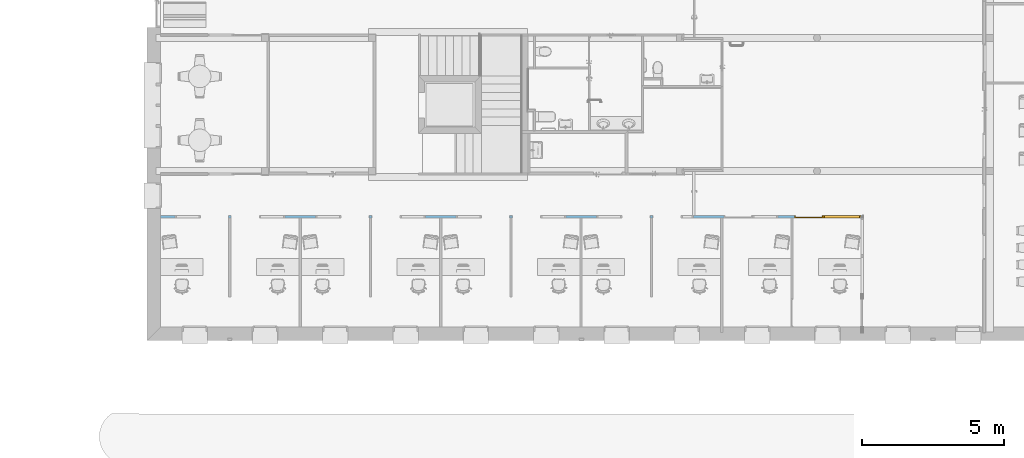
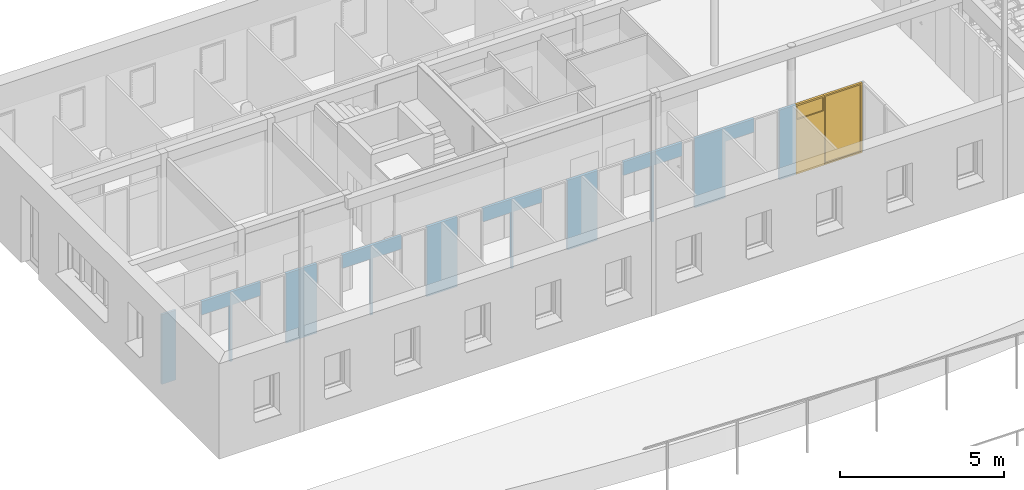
# One storey, part 39 of 91: 1 door, 1 window, 20 openings, plus 1 element that does not belong to this part.
"""IFC2X3 building model written with IfcOpenShell, lengths in metres."""

from ifc_helpers import new_model, entity, si_unit, converted_unit, derived_unit, money_unit, direction, frame, origin_with_axes, origin_2d_with_axis, place, context, subcontext, project, spatial, polyline, rectangle, outline, extrude, open_shell, faceted_brep, surface_model, material, layer, layer_set, layer_usage, type_object, element, fill, save


model = new_model("IFC2X3")

# Units and contexts
model_context = context("Model", 3, precision=1e-05, world=origin_with_axes(), true_north=direction((0.0, 1.0)))
body_context = subcontext(model_context, "Body", "Model", "MODEL_VIEW")
ifc_project = project(units=[si_unit("LENGTHUNIT", "METRE"), si_unit("AREAUNIT", "SQUARE_METRE"), si_unit("VOLUMEUNIT", "CUBIC_METRE"), converted_unit("PLANEANGLEUNIT", "DEGREE", entity("IfcPlaneAngleMeasure", 0.0174532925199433), si_unit("PLANEANGLEUNIT", "RADIAN"), dimensions=[0, 0, 0, 0, 0, 0, 0]), money_unit("EUR"), converted_unit("TIMEUNIT", "Year", entity("IfcTimeMeasure", 31557600.0), si_unit("TIMEUNIT", "SECOND"), dimensions=[0, 0, 1, 0, 0, 0, 0]), si_unit("MASSUNIT", "GRAM", prefix="KILO"), si_unit("THERMODYNAMICTEMPERATUREUNIT", "DEGREE_CELSIUS"), si_unit("LUMINOUSINTENSITYUNIT", "LUMEN"), si_unit("ENERGYUNIT", "JOULE", prefix="MEGA"), derived_unit("THERMALCONDUCTANCEUNIT", [(si_unit("POWERUNIT", "WATT"), 1), (si_unit("LENGTHUNIT", "METRE"), -1), (si_unit("THERMODYNAMICTEMPERATUREUNIT", "KELVIN"), -1)]), derived_unit("SPECIFICHEATCAPACITYUNIT", [(si_unit("ENERGYUNIT", "JOULE"), 1), (si_unit("MASSUNIT", "GRAM", prefix="KILO"), -1), (si_unit("THERMODYNAMICTEMPERATUREUNIT", "KELVIN"), -1)]), derived_unit("MASSDENSITYUNIT", [(si_unit("MASSUNIT", "GRAM", prefix="KILO"), 1), (si_unit("VOLUMEUNIT", "CUBIC_METRE"), -1)])], contexts=[model_context])

# Site, building, storey
site_placement = place(None, origin_with_axes())
site = spatial("IfcSite", under=ifc_project, at=site_placement, Name="Site", CompositionType="ELEMENT")
building_placement = place(site_placement, origin_with_axes())
building = spatial("IfcBuilding", under=site, at=building_placement, Name="Bâtiment", CompositionType="ELEMENT")
storey_placement = place(building_placement, origin_with_axes())
storey = spatial("IfcBuildingStorey", under=building, at=storey_placement, Name="RDC", CompositionType="ELEMENT", Elevation=0.0)

# Wall, openings, window, door
ifc_material = material(Name="*PLAQUE DE PLATRE - CLOISON")
ifc_layer = layer(ifc_material, 0.08, ventilated="UNKNOWN")
ifc_layer_set = layer_set([ifc_layer], Name="*PLAQUE DE PLATRE - CLOISON 0.08")
ifc_layer_usage = layer_usage(ifc_layer_set, "AXIS2", "NEGATIVE", 0.0)
wall_type = type_object("IfcWallType", Name="*PLAQUE DE PLATRE - CLOISON 80", PredefinedType="NOTDEFINED")
wall_placement = place(storey_placement, frame((49.88999999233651, -23.11056215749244, 0.0), z_axis=(0.0, 0.0, 1.0), x_axis=(-1.0, 0.0, 0.0)))
wall = element("IfcWallStandardCase", 1, at=wall_placement, inside=storey, type_object=wall_type, material=ifc_layer_usage, Name="Cloison modulaire", context=body_context, shape_type="SweptSolid", body=[
    extrude(outline(polyline([(0.0, -0.0799999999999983), (24.78999999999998, -0.0799999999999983), (24.78999999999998, 0.0), (0.0799999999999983, 0.0), (0.0, -0.0799999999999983)])), origin_with_axes(), (0.0, 0.0, 1.0), 2.6),
])
opening_1_placement = place(wall_placement, frame((0.7535000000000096, 0.0, 0.0), z_axis=(0.0, 0.0, 1.0), x_axis=(1.0, 0.0, 0.0)))
opening_1 = element("IfcOpeningElement", 2, at=opening_1_placement, cuts=wall, Name="CH.3+vitrophanie", context=body_context, shape_type="SweptSolid", body=[
    extrude(rectangle(XDim=1.347000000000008, YDim=2.6, at=origin_2d_with_axis()), frame((0.0, 0.08000000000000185, 1.3), z_axis=(0.0, -1.0, 0.0), x_axis=(-1.0, 0.0, 0.0)), (0.0, 0.0, 1.0), 0.24),
])
opening_2_placement = place(wall_placement, frame((3.459999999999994, 0.0, 0.0), z_axis=(0.0, 0.0, 1.0), x_axis=(1.0, 0.0, 0.0)))
element("IfcOpeningElement", 3, at=opening_2_placement, cuts=wall, Name="CH.1+vitrophanie", context=body_context, shape_type="SweptSolid", body=[
    extrude(rectangle(XDim=0.9000000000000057, YDim=2.6, at=origin_2d_with_axis()), frame((0.0, 0.08000000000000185, 1.3), z_axis=(0.0, -1.0, 0.0), x_axis=(-1.0, 0.0, 0.0)), (0.0, 0.0, 1.0), 0.24),
])
opening_3_placement = place(wall_placement, frame((8.966999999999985, 0.0, 0.0), z_axis=(0.0, 0.0, 1.0), x_axis=(1.0, 0.0, 0.0)))
element("IfcOpeningElement", 4, at=opening_3_placement, cuts=wall, Name="CH.1+vitrophanie", context=body_context, shape_type="SweptSolid", body=[
    extrude(rectangle(XDim=0.9000000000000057, YDim=2.6, at=origin_2d_with_axis()), frame((0.0, 0.08000000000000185, 1.3), z_axis=(0.0, -1.0, 0.0), x_axis=(-1.0, 0.0, 0.0)), (0.0, 0.0, 1.0), 0.24),
])
opening_4_placement = place(wall_placement, frame((6.216999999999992, 0.0, 0.0), z_axis=(0.0, 0.0, 1.0), x_axis=(1.0, 0.0, 0.0)))
element("IfcOpeningElement", 5, at=opening_4_placement, cuts=wall, Name="CH.2+vitrophanie", context=body_context, shape_type="SweptSolid", body=[
    extrude(rectangle(XDim=0.4400000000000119, YDim=2.6, at=origin_2d_with_axis()), frame((0.0, 0.08000000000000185, 1.3), z_axis=(0.0, -1.0, 0.0), x_axis=(-1.0, 0.0, 0.0)), (0.0, 0.0, 1.0), 0.24),
])
opening_5_placement = place(wall_placement, frame((10.93699999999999, 0.0, 0.0), z_axis=(0.0, 0.0, 1.0), x_axis=(1.0, 0.0, 0.0)))
element("IfcOpeningElement", 6, at=opening_5_placement, cuts=wall, Name="CH.1+vitrophanie", context=body_context, shape_type="SweptSolid", body=[
    extrude(rectangle(XDim=0.9000000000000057, YDim=2.6, at=origin_2d_with_axis()), frame((0.0, 0.08000000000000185, 1.3), z_axis=(0.0, -1.0, 0.0), x_axis=(-1.0, 0.0, 0.0)), (0.0, 0.0, 1.0), 0.24),
])
opening_6_placement = place(wall_placement, frame((15.89699999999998, 0.0, 0.0), z_axis=(0.0, 0.0, 1.0), x_axis=(1.0, 0.0, 0.0)))
element("IfcOpeningElement", 7, at=opening_6_placement, cuts=wall, Name="CH.1+vitrophanie", context=body_context, shape_type="SweptSolid", body=[
    extrude(rectangle(XDim=0.9000000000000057, YDim=2.6, at=origin_2d_with_axis()), frame((0.0, 0.08000000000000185, 1.3), z_axis=(0.0, -1.0, 0.0), x_axis=(-1.0, 0.0, 0.0)), (0.0, 0.0, 1.0), 0.24),
])
opening_7_placement = place(wall_placement, frame((20.85699999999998, 0.0, 0.0), z_axis=(0.0, 0.0, 1.0), x_axis=(1.0, 0.0, 0.0)))
element("IfcOpeningElement", 8, at=opening_7_placement, cuts=wall, Name="CH.1+vitrophanie", context=body_context, shape_type="SweptSolid", body=[
    extrude(rectangle(XDim=0.8999999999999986, YDim=2.6, at=origin_2d_with_axis()), frame((0.0, 0.08000000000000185, 1.3), z_axis=(0.0, -1.0, 0.0), x_axis=(-1.0, 0.0, 0.0)), (0.0, 0.0, 1.0), 0.24),
])
opening_8_placement = place(wall_placement, frame((18.87699999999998, 0.0, 0.0), z_axis=(0.0, 0.0, 1.0), x_axis=(1.0, 0.0, 0.0)))
element("IfcOpeningElement", 9, at=opening_8_placement, cuts=wall, Name="CH.1+vitrophanie", context=body_context, shape_type="SweptSolid", body=[
    extrude(rectangle(XDim=0.8999999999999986, YDim=2.6, at=origin_2d_with_axis()), frame((0.0, 0.08000000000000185, 1.3), z_axis=(0.0, -1.0, 0.0), x_axis=(-1.0, 0.0, 0.0)), (0.0, 0.0, 1.0), 0.24),
])
opening_9_placement = place(wall_placement, frame((23.83699999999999, 0.0, 0.0), z_axis=(0.0, 0.0, 1.0), x_axis=(1.0, 0.0, 0.0)))
element("IfcOpeningElement", 10, at=opening_9_placement, cuts=wall, Name="CH.1+vitrophanie", context=body_context, shape_type="SweptSolid", body=[
    extrude(rectangle(XDim=0.8999999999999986, YDim=2.6, at=origin_2d_with_axis()), frame((0.0, 0.08000000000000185, 1.3), z_axis=(0.0, -1.0, 0.0), x_axis=(-1.0, 0.0, 0.0)), (0.0, 0.0, 1.0), 0.24),
])
opening_10_placement = place(wall_placement, frame((1.927000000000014, 0.0, 0.0), z_axis=(0.0, 0.0, 1.0), x_axis=(1.0, 0.0, 0.0)))
opening_10 = element("IfcOpeningElement", 11, at=opening_10_placement, cuts=wall, Name="Pi.01", context=body_context, shape_type="SweptSolid", body=[
    extrude(rectangle(XDim=1.0, YDim=2.6, at=origin_2d_with_axis()), frame((0.0, 0.08000000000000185, 1.3), z_axis=(0.0, -1.0, 0.0), x_axis=(1.0, 0.0, 0.0)), (0.0, 0.0, 1.0), 0.24),
])
opening_11_placement = place(wall_placement, frame((13.91699999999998, 0.0, 0.0), z_axis=(0.0, 0.0, 1.0), x_axis=(1.0, 0.0, 0.0)))
element("IfcOpeningElement", 12, at=opening_11_placement, cuts=wall, Name="CH.1+vitrophanie", context=body_context, shape_type="SweptSolid", body=[
    extrude(rectangle(XDim=0.9000000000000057, YDim=2.6, at=origin_2d_with_axis()), frame((0.0, 0.08000000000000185, 1.3), z_axis=(0.0, -1.0, 0.0), x_axis=(-1.0, 0.0, 0.0)), (0.0, 0.0, 1.0), 0.24),
])
opening_12_placement = place(wall_placement, frame((4.409999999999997, 0.0, 0.0), z_axis=(0.0, 0.0, 1.0), x_axis=(1.0, 0.0, 0.0)))
element("IfcOpeningElement", 13, at=opening_12_placement, cuts=wall, Name="Pi.01", context=body_context, shape_type="SweptSolid", body=[
    extrude(rectangle(XDim=1.0, YDim=2.1, at=origin_2d_with_axis()), frame((0.0, 0.08000000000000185, 1.05), z_axis=(0.0, -1.0, 0.0), x_axis=(1.0, 0.0, 0.0)), (0.0, 0.0, 1.0), 0.24),
])
opening_13_placement = place(wall_placement, frame((17.92699999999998, 0.0, 0.0), z_axis=(0.0, 0.0, 1.0), x_axis=(1.0, 0.0, 0.0)))
element("IfcOpeningElement", 14, at=opening_13_placement, cuts=wall, Name="libre", context=body_context, shape_type="SweptSolid", body=[
    extrude(rectangle(XDim=0.9999999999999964, YDim=2.1, at=origin_2d_with_axis()), frame((0.0, -0.0800000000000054, 1.05), z_axis=(0.0, 1.0, 0.0), x_axis=(1.0, 0.0, 0.0)), (0.0, 0.0, -1.0), 0.08),
    extrude(rectangle(XDim=0.9999999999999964, YDim=2.1, at=origin_2d_with_axis()), frame((0.0, -0.0800000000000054, 1.05), z_axis=(0.0, -1.0, 0.0), x_axis=(1.0, 0.0, 0.0)), (0.0, 0.0, -1.0), 0.08),
])
opening_14_placement = place(wall_placement, frame((11.88699999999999, 0.0, 0.0), z_axis=(0.0, 0.0, 1.0), x_axis=(1.0, 0.0, 0.0)))
element("IfcOpeningElement", 15, at=opening_14_placement, cuts=wall, Name="libre", context=body_context, shape_type="SweptSolid", body=[
    extrude(rectangle(XDim=1.0, YDim=2.1, at=origin_2d_with_axis()), frame((0.0, -0.0799999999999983, 1.05), z_axis=(0.0, 1.0, 0.0), x_axis=(1.0, 0.0, 0.0)), (0.0, 0.0, -1.0), 0.08),
    extrude(rectangle(XDim=1.0, YDim=2.1, at=origin_2d_with_axis()), frame((0.0, -0.0799999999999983, 1.05), z_axis=(0.0, -1.0, 0.0), x_axis=(1.0, 0.0, 0.0)), (0.0, 0.0, -1.0), 0.08),
])
opening_15_placement = place(wall_placement, frame((12.96699999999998, 0.0, 0.0), z_axis=(0.0, 0.0, 1.0), x_axis=(1.0, 0.0, 0.0)))
element("IfcOpeningElement", 16, at=opening_15_placement, cuts=wall, Name="libre", context=body_context, shape_type="SweptSolid", body=[
    extrude(rectangle(XDim=1.0, YDim=2.1, at=origin_2d_with_axis()), frame((0.0, -0.08000000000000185, 1.05), z_axis=(0.0, 1.0, 0.0), x_axis=(1.0, 0.0, 0.0)), (0.0, 0.0, -1.0), 0.08),
    extrude(rectangle(XDim=1.0, YDim=2.1, at=origin_2d_with_axis()), frame((0.0, -0.08000000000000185, 1.05), z_axis=(0.0, -1.0, 0.0), x_axis=(1.0, 0.0, 0.0)), (0.0, 0.0, -1.0), 0.08),
])
opening_16_placement = place(wall_placement, frame((6.936999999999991, 0.0, 0.0), z_axis=(0.0, 0.0, 1.0), x_axis=(1.0, 0.0, 0.0)))
element("IfcOpeningElement", 17, at=opening_16_placement, cuts=wall, Name="libre", context=body_context, shape_type="SweptSolid", body=[
    extrude(rectangle(XDim=1.0, YDim=2.1, at=origin_2d_with_axis()), frame((0.0, -0.0799999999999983, 1.05), z_axis=(0.0, 1.0, 0.0), x_axis=(1.0, 0.0, 0.0)), (0.0, 0.0, -1.0), 0.08),
    extrude(rectangle(XDim=1.0, YDim=2.1, at=origin_2d_with_axis()), frame((0.0, -0.0799999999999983, 1.05), z_axis=(0.0, -1.0, 0.0), x_axis=(1.0, 0.0, 0.0)), (0.0, 0.0, -1.0), 0.08),
])
opening_17_placement = place(wall_placement, frame((8.016999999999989, 0.0, 0.0), z_axis=(0.0, 0.0, 1.0), x_axis=(1.0, 0.0, 0.0)))
element("IfcOpeningElement", 18, at=opening_17_placement, cuts=wall, Name="libre", context=body_context, shape_type="SweptSolid", body=[
    extrude(rectangle(XDim=1.0, YDim=2.1, at=origin_2d_with_axis()), frame((0.0, -0.0799999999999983, 1.05), z_axis=(0.0, 1.0, 0.0), x_axis=(1.0, 0.0, 0.0)), (0.0, 0.0, -1.0), 0.08),
    extrude(rectangle(XDim=1.0, YDim=2.1, at=origin_2d_with_axis()), frame((0.0, -0.0799999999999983, 1.05), z_axis=(0.0, -1.0, 0.0), x_axis=(1.0, 0.0, 0.0)), (0.0, 0.0, -1.0), 0.08),
])
opening_18_placement = place(wall_placement, frame((16.84699999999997, 0.0, 0.0), z_axis=(0.0, 0.0, 1.0), x_axis=(1.0, 0.0, 0.0)))
element("IfcOpeningElement", 19, at=opening_18_placement, cuts=wall, Name="libre", context=body_context, shape_type="SweptSolid", body=[
    extrude(rectangle(XDim=1.0, YDim=2.1, at=origin_2d_with_axis()), frame((0.0, -0.0800000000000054, 1.05), z_axis=(0.0, 1.0, 0.0), x_axis=(1.0, 0.0, 0.0)), (0.0, 0.0, -1.0), 0.08),
    extrude(rectangle(XDim=1.0, YDim=2.1, at=origin_2d_with_axis()), frame((0.0, -0.0800000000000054, 1.05), z_axis=(0.0, -1.0, 0.0), x_axis=(1.0, 0.0, 0.0)), (0.0, 0.0, -1.0), 0.08),
])
opening_19_placement = place(wall_placement, frame((22.88699999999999, 0.0, 0.0), z_axis=(0.0, 0.0, 1.0), x_axis=(1.0, 0.0, 0.0)))
element("IfcOpeningElement", 20, at=opening_19_placement, cuts=wall, Name="libre", context=body_context, shape_type="SweptSolid", body=[
    extrude(rectangle(XDim=1.0, YDim=2.1, at=origin_2d_with_axis()), frame((0.0, -0.0800000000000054, 1.05), z_axis=(0.0, 1.0, 0.0), x_axis=(1.0, 0.0, 0.0)), (0.0, 0.0, -1.0), 0.08),
    extrude(rectangle(XDim=1.0, YDim=2.1, at=origin_2d_with_axis()), frame((0.0, -0.0800000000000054, 1.05), z_axis=(0.0, -1.0, 0.0), x_axis=(1.0, 0.0, 0.0)), (0.0, 0.0, -1.0), 0.08),
])
opening_20_placement = place(wall_placement, frame((21.80699999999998, 0.0, 0.0), z_axis=(0.0, 0.0, 1.0), x_axis=(1.0, 0.0, 0.0)))
element("IfcOpeningElement", 21, at=opening_20_placement, cuts=wall, Name="libre", context=body_context, shape_type="SweptSolid", body=[
    extrude(rectangle(XDim=1.0, YDim=2.1, at=origin_2d_with_axis()), frame((0.0, -0.0800000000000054, 1.05), z_axis=(0.0, 1.0, 0.0), x_axis=(1.0, 0.0, 0.0)), (0.0, 0.0, -1.0), 0.08),
    extrude(rectangle(XDim=1.0, YDim=2.1, at=origin_2d_with_axis()), frame((0.0, -0.0800000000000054, 1.05), z_axis=(0.0, -1.0, 0.0), x_axis=(1.0, 0.0, 0.0)), (0.0, 0.0, -1.0), 0.08),
])
window_style = type_object("IfcWindowStyle", Name="Fenêtre 27", ConstructionType="NOTDEFINED", OperationType="SINGLE_PANEL", ParameterTakesPrecedence=False, Sizeable=False)
window_placement = place(opening_1_placement, frame((0.6735000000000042, 0.0, 0.0), z_axis=(0.0, 0.0, 1.0), x_axis=(-1.0, 0.0, 0.0)))
window = element("IfcWindow", 22, at=window_placement, inside=storey, type_object=window_style, Name="CH.3+vitrophanie", OverallHeight=2.6, OverallWidth=1.347, context=body_context, shape_type="SurfaceModel", body=[
    faceted_brep([(0.04999999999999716, 0.0, 2.55), (0.04999999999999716, 0.0799999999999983, 2.55), (0.0, 0.0799999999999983, 2.6), (0.0, 0.0, 2.6), (0.04999999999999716, 0.0, 0.04999999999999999), (0.04999999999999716, 0.0799999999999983, 0.05), (0.0, 0.0799999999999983, 0.0), (0.0, 0.0, 0.0)], [[[0, 1, 2, 3]], [[4, 5, 1, 0]], [[1, 5, 6, 2]], [[3, 2, 6, 7]], [[0, 3, 7, 4]], [[7, 6, 5, 4]]]),
    faceted_brep([(1.297000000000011, 0.0, 0.04999999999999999), (1.297000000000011, 0.0799999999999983, 0.05), (1.347000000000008, 0.0799999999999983, 0.0), (1.347000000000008, 0.0, 0.0), (1.297000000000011, 0.0, 2.55), (1.297000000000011, 0.0799999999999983, 2.55), (1.347000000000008, 0.0799999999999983, 2.6), (1.347000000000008, 0.0, 2.6)], [[[0, 1, 2, 3]], [[4, 5, 1, 0]], [[1, 5, 6, 2]], [[3, 2, 6, 7]], [[0, 3, 7, 4]], [[7, 6, 5, 4]]]),
    faceted_brep([(0.04999999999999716, 0.0, 0.04999999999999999), (0.04999999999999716, 0.0799999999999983, 0.05), (0.0, 0.0799999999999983, 0.0), (0.0, 0.0, 0.0), (1.297000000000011, 0.0, 0.04999999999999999), (1.297000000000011, 0.0799999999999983, 0.05), (1.347000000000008, 0.0799999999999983, 0.0), (1.347000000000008, 0.0, 0.0)], [[[0, 1, 2, 3]], [[4, 5, 1, 0]], [[1, 5, 6, 2]], [[3, 2, 6, 7]], [[0, 3, 7, 4]], [[7, 6, 5, 4]]]),
    faceted_brep([(1.297000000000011, 0.0, 2.55), (1.297000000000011, 0.0799999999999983, 2.55), (1.347000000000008, 0.0799999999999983, 2.6), (1.347000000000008, 0.0, 2.6), (0.04999999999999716, 0.0, 2.55), (0.04999999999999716, 0.0799999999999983, 2.55), (0.0, 0.0799999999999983, 2.6), (0.0, 0.0, 2.6)], [[[0, 1, 2, 3]], [[4, 5, 1, 0]], [[1, 5, 6, 2]], [[3, 2, 6, 7]], [[0, 3, 7, 4]], [[7, 6, 5, 4]]]),
    surface_model("IfcShellBasedSurfaceModel", [(0.04999999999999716, 0.05999999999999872, 0.05000000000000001), (1.297000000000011, 0.05999999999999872, 0.05000000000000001), (1.297000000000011, 0.05999999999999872, 2.55), (0.04999999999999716, 0.05999999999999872, 2.55)], [open_shell([[[0, 1, 2, 3]]])]),
    surface_model("IfcShellBasedSurfaceModel", [(0.04999999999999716, 0.0799999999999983, 0.05000000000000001), (0.04999999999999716, 0.0799999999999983, 2.55), (1.297000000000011, 0.0799999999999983, 2.55), (1.297000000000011, 0.0799999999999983, 0.05000000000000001)], [open_shell([[[0, 1, 2, 3]]])]),
])
fill(opening_1, window)
door_style = type_object("IfcDoorStyle", Name="Porte avec imposte 27", ConstructionType="NOTDEFINED", OperationType="SINGLE_SWING_RIGHT", ParameterTakesPrecedence=False, Sizeable=False)
door_placement = place(opening_10_placement, frame((-0.5, 0.0, 0.0), z_axis=(0.0, 0.0, 1.0), x_axis=(1.0, 0.0, 0.0)))
door = element("IfcDoor", 23, at=door_placement, inside=storey, type_object=door_style, Name="Pi.01", OverallHeight=2.6, OverallWidth=1.0, context=body_context, shape_type="SurfaceModel", body=[
    faceted_brep([(0.03509975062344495, 0.0, 2.03), (0.03509975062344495, -0.0519999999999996, 2.03), (0.03509975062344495, -0.0799999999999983, 2.03), (0.03499999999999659, -0.0799999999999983, 1.99), (0.03499999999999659, -0.03999999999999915, 1.99), (0.03507481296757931, -0.03999999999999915, 2.02), (0.03507481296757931, 0.0, 2.02), (0.03499999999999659, -0.0519999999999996, 2.03), (0.03499999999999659, 0.0, 2.03), (0.03499999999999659, -0.0799999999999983, 2.03), (0.03499999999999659, -0.0799999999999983, 0.0), (0.03499999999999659, -0.0799999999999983, 2.5399), (0.0, -0.0799999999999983, 2.5399), (0.0, -0.0799999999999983, 0.0), (0.03499999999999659, -0.03999999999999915, 0.0), (0.005000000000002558, -0.03999999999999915, 2.02), (0.005000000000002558, -0.03999999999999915, 0.0), (0.005000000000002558, 0.0, 2.02), (0.005000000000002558, 0.0, 0.0), (0.0, 0.0, 0.0), (0.0, 0.0, 2.5399), (0.03499999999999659, 0.0, 2.5399), (0.03499999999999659, -0.0519999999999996, 2.5399)], [[[0, 1, 2, 3, 4, 5, 6]], [[7, 1, 0, 8]], [[1, 7, 9, 2]], [[10, 3, 2, 9, 11, 12, 13]], [[3, 10, 14, 4]], [[15, 5, 4, 14, 16]], [[15, 17, 6, 5]], [[8, 0, 6, 17, 18, 19, 20, 21]], [[21, 22, 7, 8]], [[7, 22, 11, 9]], [[22, 21, 20, 12, 11]], [[12, 20, 19, 13]], [[16, 14, 10, 13, 19, 18]], [[15, 16, 18, 17]]]),
    faceted_brep([(0.9650000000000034, 0.0, 2.5399), (0.9650000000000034, -0.0519999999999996, 2.5399), (0.9650000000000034, -0.0799999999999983, 2.5399), (1.0, -0.0799999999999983, 2.5399), (1.0, 0.0, 2.5399), (0.9650000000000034, -0.0519999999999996, 2.03), (0.9650000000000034, 0.0, 2.03), (0.9650000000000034, -0.0799999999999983, 2.03), (1.0, -0.0799999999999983, 0.0), (0.964900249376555, -0.0799999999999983, 2.03), (0.9650000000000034, -0.0799999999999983, 1.99), (0.9650000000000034, -0.0799999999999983, 0.0), (1.0, 0.0, 0.0), (0.9949999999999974, 0.0, 0.0), (0.9949999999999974, 0.0, 2.02), (0.9649251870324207, 0.0, 2.02), (0.964900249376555, 0.0, 2.03), (0.964900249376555, -0.0519999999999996, 2.03), (0.9649251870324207, -0.03999999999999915, 2.02), (0.9650000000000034, -0.03999999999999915, 1.99), (0.9650000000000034, -0.03999999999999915, 0.0), (0.9949999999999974, -0.03999999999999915, 0.0), (0.9949999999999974, -0.03999999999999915, 2.02)], [[[0, 1, 2, 3, 4]], [[5, 1, 0, 6]], [[1, 5, 7, 2]], [[8, 3, 2, 7, 9, 10, 11]], [[8, 12, 4, 3]], [[6, 0, 4, 12, 13, 14, 15, 16]], [[17, 5, 6, 16]], [[5, 17, 9, 7]], [[17, 16, 15, 18, 19, 10, 9]], [[11, 10, 19, 20]], [[21, 13, 12, 8, 11, 20]], [[21, 22, 14, 13]], [[22, 18, 15, 14]], [[22, 21, 20, 19, 18]]]),
    faceted_brep([(0.03499999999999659, -0.0519999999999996, 2.54), (0.9650000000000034, -0.0519999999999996, 2.54), (0.9650000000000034, -0.0799999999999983, 2.54), (0.03499999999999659, -0.0799999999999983, 2.54), (0.03499999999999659, 0.0, 2.54), (0.9650000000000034, 0.0, 2.54), (0.9650000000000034, -0.0519999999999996, 2.5399), (0.9650000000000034, -0.0799999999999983, 2.5399), (1.0, -0.0799999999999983, 2.6), (0.0, -0.0799999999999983, 2.6), (0.0, -0.0799999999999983, 2.5399), (0.03499999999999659, -0.0799999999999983, 2.5399), (1.0, -0.0799999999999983, 2.5399), (0.03499999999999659, -0.0519999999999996, 2.5399), (0.03499999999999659, 0.0, 2.5399), (0.0, 0.0, 2.5399), (0.0, 0.0, 2.6), (1.0, 0.0, 2.6), (1.0, 0.0, 2.5399), (0.9650000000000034, 0.0, 2.5399)], [[[0, 1, 2, 3]], [[1, 0, 4, 5]], [[1, 6, 7, 2]], [[8, 9, 10, 11, 3, 2, 7, 12]], [[13, 0, 3, 11]], [[0, 13, 14, 4]], [[4, 14, 15, 16, 17, 18, 19, 5]], [[6, 1, 5, 19]], [[6, 19, 18, 12, 7]], [[9, 8, 17, 16]], [[10, 9, 16, 15]], [[14, 13, 11, 10, 15]], [[8, 12, 18, 17]]]),
    faceted_brep([(0.964900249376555, 0.0, 2.03), (0.964900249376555, -0.0519999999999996, 2.03), (0.964900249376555, -0.0799999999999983, 2.03), (0.9650000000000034, -0.0799999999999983, 1.99), (0.9650000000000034, -0.03999999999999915, 1.99), (0.9649251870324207, -0.03999999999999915, 2.02), (0.9649251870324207, 0.0, 2.02), (0.03509975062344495, -0.0519999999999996, 2.03), (0.03509975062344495, 0.0, 2.03), (0.03509975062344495, -0.0799999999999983, 2.03), (0.03499999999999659, -0.0799999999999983, 1.99), (0.03499999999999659, -0.03999999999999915, 1.99), (0.03507481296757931, -0.03999999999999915, 2.02), (0.03507481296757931, 0.0, 2.02)], [[[0, 1, 2, 3, 4, 5, 6]], [[7, 1, 0, 8]], [[1, 7, 9, 2]], [[9, 10, 3, 2]], [[3, 10, 11, 4]], [[11, 12, 5, 4]], [[12, 13, 6, 5]], [[8, 0, 6, 13]], [[7, 8, 13, 12, 11, 10, 9]]]),
    faceted_brep([(0.9949999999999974, 0.0, 0.0), (0.9949999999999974, -0.03999999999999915, 0.0), (0.005000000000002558, -0.03999999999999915, 0.0), (0.005000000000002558, 0.0, 0.0), (0.9949999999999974, 0.0, 2.02), (0.9949999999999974, -0.03999999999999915, 2.02), (0.005000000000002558, -0.03999999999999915, 2.02), (0.005000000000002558, 0.0, 2.02)], [[[0, 1, 2, 3]], [[4, 5, 1, 0]], [[1, 5, 6, 2]], [[3, 2, 6, 7]], [[0, 3, 7, 4]], [[7, 6, 5, 4]]]),
    surface_model("IfcShellBasedSurfaceModel", [(0.03499999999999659, -0.0519999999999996, 2.03), (0.03499999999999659, -0.0519999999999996, 2.54), (0.9650000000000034, -0.0519999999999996, 2.54), (0.9650000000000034, -0.0519999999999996, 2.03)], [open_shell([[[0, 1, 2, 3]]])]),
    surface_model("IfcShellBasedSurfaceModel", [(0.03499999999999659, -0.07199999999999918, 2.03), (0.9650000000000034, -0.07199999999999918, 2.03), (0.9650000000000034, -0.07199999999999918, 2.54), (0.03499999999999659, -0.07199999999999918, 2.54)], [open_shell([[[0, 1, 2, 3]]])]),
])
fill(opening_10, door)

save(model, "model.ifc")
